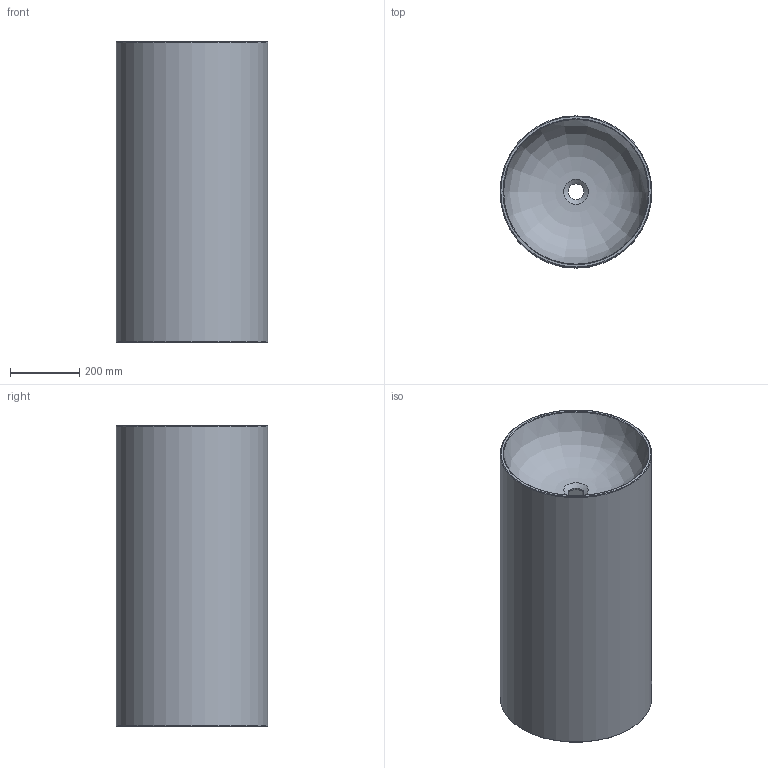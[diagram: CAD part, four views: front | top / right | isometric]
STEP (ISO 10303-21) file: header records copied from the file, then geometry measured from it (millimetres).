
FILE_DESCRIPTION(/* description */ (''),/* implementation_level */ '2;1');
FILE_NAME(/* name */ '14-089_C917A.stp',/* time_stamp */ '2018-06-21T09:15:29+02:00',/* author */ (''),/* organization */ (''),/* preprocessor_version */ 'ST-DEVELOPER v15',/* originating_system */ 'SIEMENS PLM Software NX 8.5',/* authorisation */ '');
FILE_SCHEMA (('AUTOMOTIVE_DESIGN { 1 0 10303 214 3 1 1 1 }'));
Length unit declared in the file: millimetre
Products named in the file (1): Robe17607263nugz
Bounding box: 440 x 440 x 870 mm (x, y, z)
Volume: 18577437.5 mm3; surface area: 2602092.5 mm2
Topology: 1 solids, 1 shells, 58 faces, 134 edges, 75 vertices
Faces by surface type: cylinder 22, plane 17, sphere 8, torus 5, bspline 3, cone 2, revolution 1
Full cylindrical faces by diameter (mm): 10 x2, 20 x2, 46 x1, 440 x1
Entity records: 1931 total; most frequent: CARTESIAN_POINT 708, DIRECTION 263, ORIENTED_EDGE 210, AXIS2_PLACEMENT_3D 110, EDGE_CURVE 105, EDGE_LOOP 84, VERTEX_POINT 69, ADVANCED_FACE 58
